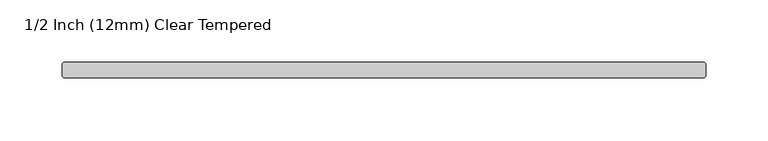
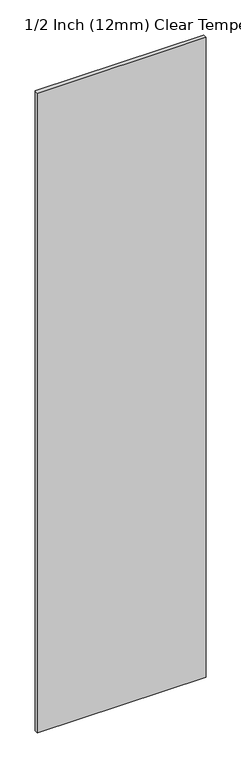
"""IFC4 building model written with IfcOpenShell, lengths in millimetres: plate geometry, Melius SG Panels 1/2 Inch : 1/2 Inch (12mm) Clear Tempered."""

from ifc_helpers import new_model, si_unit, origin, origin_with_axes, place, context, project, spatial, polyline, outline, extrude, source, transform, mapped, element, save


def plate_1_2_inch_12mm_clear_tempered_de398784(model_context):
    return source(origin(), model_context, "Body", "SweptSolid", [
        extrude(outline(polyline([(257.5737288, 6.35), (258.9627913, 4.9609375), (258.9627913, -4.9609375), (257.5737288, -6.35), (-257.5737288, -6.35), (-258.9627913, -4.9609375), (-258.9627913, 4.9609375), (-257.5737288, 6.35), (257.5737288, 6.35)])), origin_with_axes(), (0.0, 0.0, 1.0), 2070.1),
    ])


if __name__ == "__main__":
    model = new_model("IFC4")
    model_context = context("Model", 3, world=origin())
    ifc_project = project(units=[si_unit("LENGTHUNIT", "METRE", prefix="MILLI")], contexts=[model_context])
    site = spatial("IfcSite", under=ifc_project)
    building = spatial("IfcBuilding", under=site)
    placement = place(None, origin())
    plate_1_2_inch_12mm_clear_tempered_shape = plate_1_2_inch_12mm_clear_tempered_de398784(model_context)
    element("IfcPlate", 1, ObjectType="Melius SG Panels 1/2 Inch : 1/2 Inch (12mm) Clear Tempered", at=placement, inside=building, context=model_context, shape_type="MappedRepresentation", body=[
        mapped(plate_1_2_inch_12mm_clear_tempered_shape, transform((0.0, 0.0, 0.0), x_axis=(1.0, 0.0, 0.0), y_axis=(0.0, 1.0, 0.0), z_axis=(0.0, 0.0, 1.0))),
    ])
    save(model, "model.ifc")
